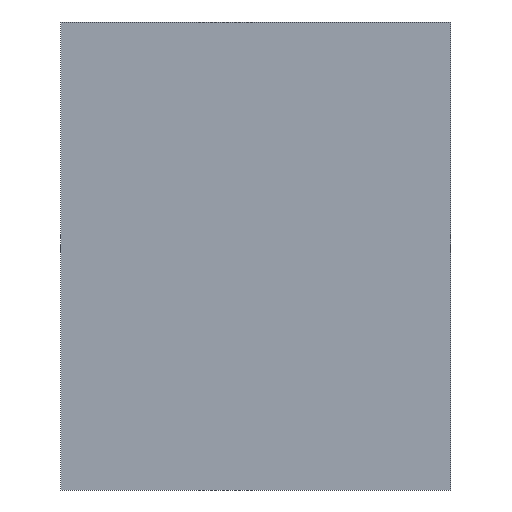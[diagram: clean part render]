
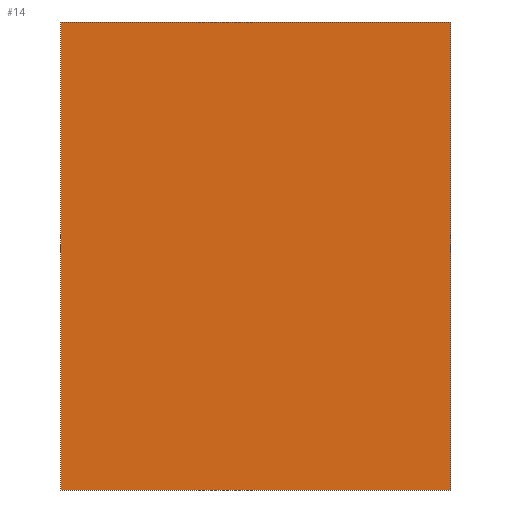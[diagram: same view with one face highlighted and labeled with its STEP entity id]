
A CAD part, front view. The second image highlights one B-rep face of the part: STEP entity #14.
In plain terms, the highlighted planar face has unit normal (0, -1, 0).
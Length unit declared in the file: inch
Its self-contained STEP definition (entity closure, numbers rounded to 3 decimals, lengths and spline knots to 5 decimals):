
#14=ADVANCED_FACE('',(#20),#88,.T.);
#20=FACE_OUTER_BOUND('',#26,.T.);
#26=EDGE_LOOP('',(#32,#33,#34,#35));
#32=ORIENTED_EDGE('',*,*,#56,.T.);
#33=ORIENTED_EDGE('',*,*,#65,.T.);
#34=ORIENTED_EDGE('',*,*,#60,.F.);
#35=ORIENTED_EDGE('',*,*,#64,.F.);
#56=EDGE_CURVE('',#80,#81,#68,.T.);
#60=EDGE_CURVE('',#84,#85,#72,.T.);
#64=EDGE_CURVE('',#80,#84,#76,.T.);
#65=EDGE_CURVE('',#81,#85,#77,.T.);
#68=B_SPLINE_CURVE_WITH_KNOTS('',1,(#217,#218),.UNSPECIFIED.,.F.,.F.,(2,
2),(0.,5.),.UNSPECIFIED.);
#72=B_SPLINE_CURVE_WITH_KNOTS('',1,(#225,#226),.UNSPECIFIED.,.F.,.F.,(2,
2),(0.,5.),.UNSPECIFIED.);
#76=B_SPLINE_CURVE_WITH_KNOTS('',1,(#233,#234),.UNSPECIFIED.,.F.,.F.,(2,
2),(0.,6.),.UNSPECIFIED.);
#77=B_SPLINE_CURVE_WITH_KNOTS('',1,(#235,#236),.UNSPECIFIED.,.F.,.F.,(2,
2),(0.,6.),.UNSPECIFIED.);
#80=VERTEX_POINT('',#209);
#81=VERTEX_POINT('',#210);
#84=VERTEX_POINT('',#213);
#85=VERTEX_POINT('',#214);
#88=PLANE('',#185);
#185=AXIS2_PLACEMENT_3D('',#203,#194,$);
#194=DIRECTION('',(0.,-1.,0.));
#203=CARTESIAN_POINT('',(0.,0.,0.));
#209=CARTESIAN_POINT('',(0.,0.,0.));
#210=CARTESIAN_POINT('',(5.,0.,0.));
#213=CARTESIAN_POINT('',(0.,0.,6.));
#214=CARTESIAN_POINT('',(5.,0.,6.));
#217=CARTESIAN_POINT('',(0.,0.,0.));
#218=CARTESIAN_POINT('',(5.,0.,0.));
#225=CARTESIAN_POINT('',(0.,0.,6.));
#226=CARTESIAN_POINT('',(5.,0.,6.));
#233=CARTESIAN_POINT('',(0.,0.,0.));
#234=CARTESIAN_POINT('',(0.,0.,6.));
#235=CARTESIAN_POINT('',(5.,0.,0.));
#236=CARTESIAN_POINT('',(5.,0.,6.));
